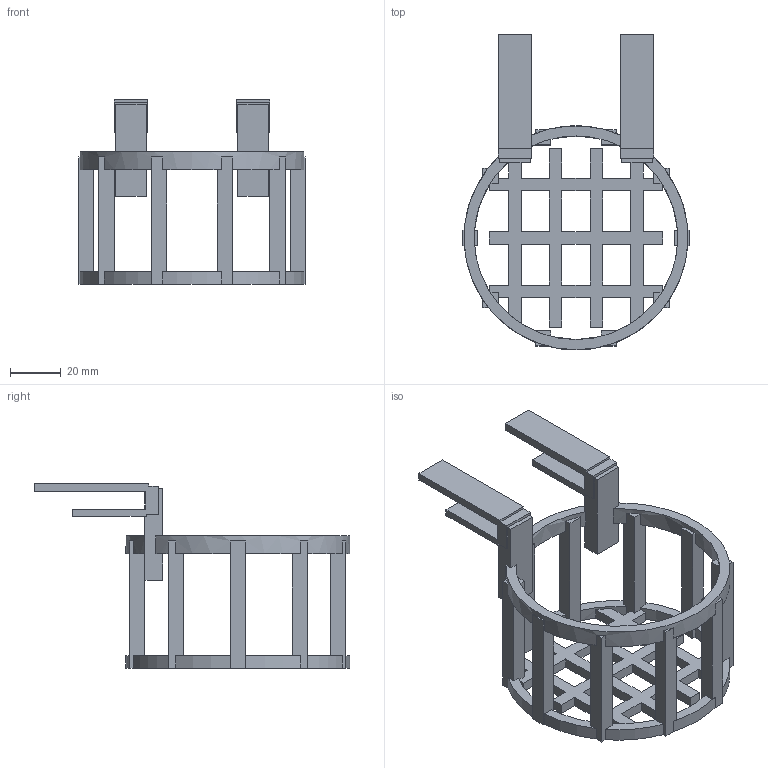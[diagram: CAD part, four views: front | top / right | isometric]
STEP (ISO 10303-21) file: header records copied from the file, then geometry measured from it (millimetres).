
FILE_DESCRIPTION(('Open CASCADE Model'),'2;1');
FILE_NAME('Open CASCADE Shape Model','2026-10-18T14:32:08',('Author'),( 'Open CASCADE'),'Open CASCADE STEP processor 7.9','Open CASCADE 7.9' ,'Unknown');
FILE_SCHEMA(('AUTOMOTIVE_DESIGN { 1 0 10303 214 1 1 1 1 }'));
Length unit declared in the file: millimetre
Products named in the file (1): Open CASCADE STEP translator 7.9 4
Bounding box: 89 x 124 x 72.5 mm (x, y, z)
Volume: 47731.1 mm3; surface area: 34311.5 mm2
Topology: 1 solids, 1 shells, 234 faces, 780 edges, 520 vertices
Faces by surface type: plane 210, cylinder 24
Entity records: 18625 total; most frequent: CARTESIAN_POINT 3401, DIRECTION 2749, LINE 2008, VECTOR 2008, ORIENTED_EDGE 1560, PCURVE 1560, DEFINITIONAL_REPRESENTATION 1560, EDGE_CURVE 780
